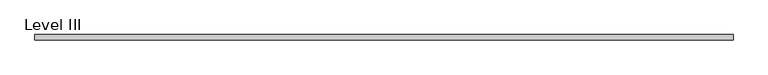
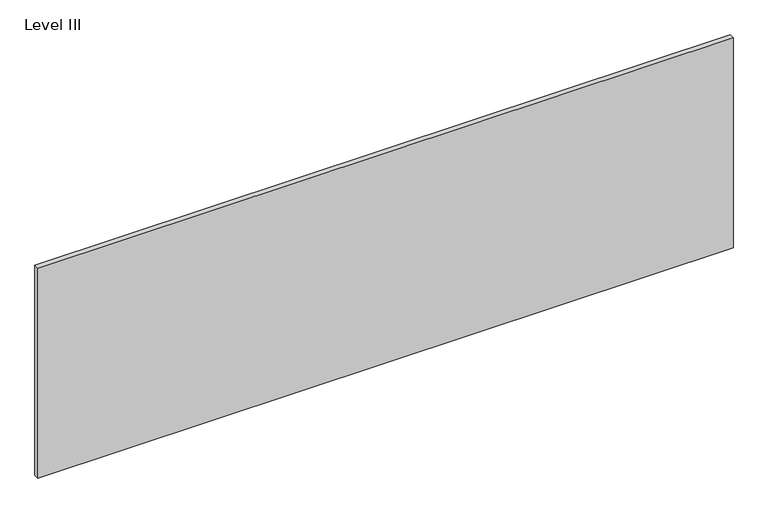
"""IFC4 building model written with IfcOpenShell, lengths in millimetres: proxy geometry, Panel-Fascia-Teknion-Altos-Landscape : Level III."""

from ifc_helpers import new_model, si_unit, frame, origin, place, context, project, spatial, polyline, outline, extrude, source, transform, mapped, element, save


def level_iii_edf6dfbd(model_context):
    return source(origin(), model_context, "Body", "SweptSolid", [
        extrude(outline(polyline([(1259.8356344, 9.525), (1259.8356344, -9.525), (-1259.8356344, -9.525), (-1259.8356344, 9.525), (1259.8356344, 9.525)])), frame((0.0, 0.0, 3.175), z_axis=(0.0, 0.0, 1.0), x_axis=(1.0, 0.0, 0.0)), (0.0, 0.0, 1.0), 804.418),
    ])


if __name__ == "__main__":
    model = new_model("IFC4")
    model_context = context("Model", 3, world=origin())
    ifc_project = project(units=[si_unit("LENGTHUNIT", "METRE", prefix="MILLI")], contexts=[model_context])
    site = spatial("IfcSite", under=ifc_project)
    building = spatial("IfcBuilding", under=site)
    placement = place(None, origin())
    level_iii_shape = level_iii_edf6dfbd(model_context)
    element("IfcBuildingElementProxy", 1, Name="Panel-Fascia-Teknion-Altos-Landscape : Level III", ObjectType="Panel-Fascia-Teknion-Altos-Landscape : Level III", at=placement, inside=building, context=model_context, shape_type="MappedRepresentation", body=[
        mapped(level_iii_shape, transform((0.0, 0.0, 0.0), x_axis=(1.0, 0.0, 0.0), y_axis=(0.0, 1.0, 0.0), z_axis=(0.0, 0.0, 1.0))),
    ])
    save(model, "model.ifc")
